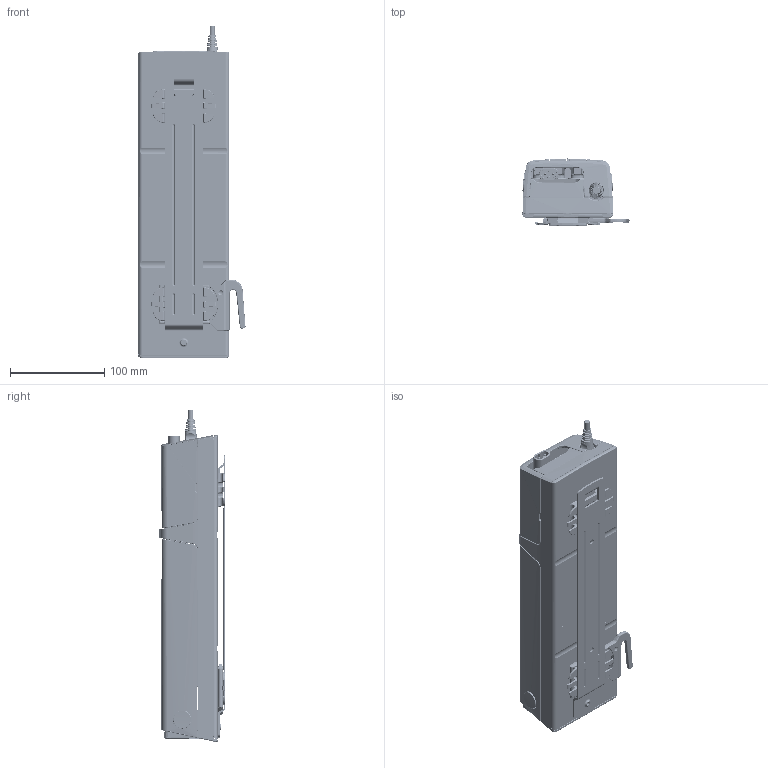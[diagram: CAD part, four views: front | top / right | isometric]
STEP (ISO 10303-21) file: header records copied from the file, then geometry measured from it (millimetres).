
FILE_DESCRIPTION((''),'2;1');
FILE_NAME('1039W4000_ASM','2021-09-01T11:46:05',('ti'),(''),'CREO PARAMETRIC BY PTC INC, 2020454','CREO PARAMETRIC BY PTC INC, 2020454','');
FILE_SCHEMA(('AUTOMOTIVE_DESIGN { 1 0 10303 214 1 1 1 1 }'));
Length unit declared in the file: millimetre
Products named in the file (7): 1039W4000-COL; 1039W4000-BAL; 1039W4000-COL-LID; 1039W4000-BRACKET; 1039W4000-PLUGS; 1039W4000-1039W1041; 1039W4000_ASM
Assembly tree (6 placements, depth 2):
  1039W4000_ASM
    1039W4000-COL
    1039W4000-BAL
    1039W4000-COL-LID
    1039W4000-BRACKET
    1039W4000-PLUGS
    1039W4000-1039W1041
Bounding box: 113.36 x 70.9 x 351.44 mm (x, y, z)
Volume: 1654504.5 mm3; surface area: 280976.8 mm2
Topology: 11 solids, 15 shells, 11008 faces, 28445 edges, 17918 vertices
Faces by surface type: plane 6277, cylinder 1991, bspline 1240, torus 892, cone 345, sphere 224, extrusion 31, revolution 8
Entity records: 469955 total; most frequent: CARTESIAN_POINT 156899, ORIENTED_EDGE 56810, DIRECTION 49343, EDGE_CURVE 28405, VECTOR 19177, LINE 19146, VERTEX_POINT 17917, AXIS2_PLACEMENT_3D 15079
